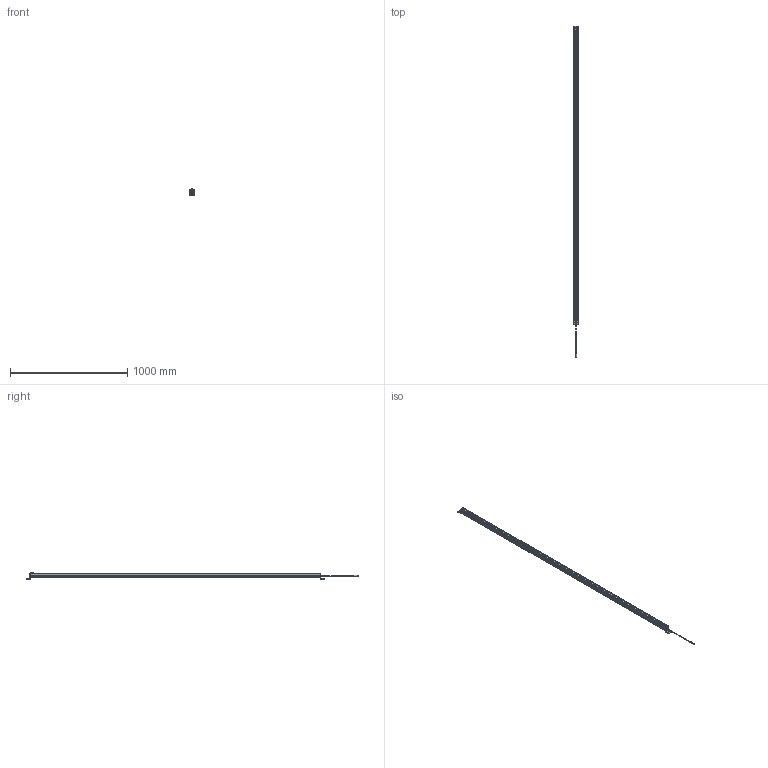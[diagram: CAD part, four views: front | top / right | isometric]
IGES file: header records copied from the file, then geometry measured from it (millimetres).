
Start section:  Autodesk DirectConnect version 7.0.27.0 ---- IGES version 5.3
Global section: file name: C:\ACADFILES\SS_PYLONS\CUSTOMER_FILES\SS-96-PYLON_3D_L.iges; native system: Autodesk DirectConnect 7.0.27.0; preprocessor: 7.0.27.0; author: ENGINEERMAIN; organization: Unknown; date: 20150810.130724; units: inch
Bounding box: 37.03 x 2832.67 x 53.51 mm (x, y, z)
Surface area: 918491.6 mm2 (no closed solid volume)
Topology: 0 solids, 0 shells, 475 faces, 2604 edges, 2623 vertices
Faces by surface type: bspline 475
